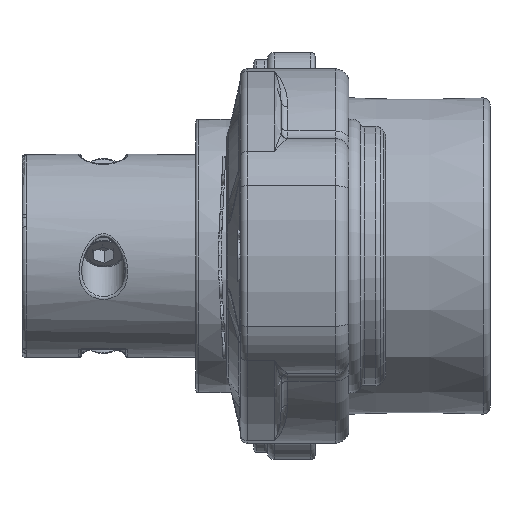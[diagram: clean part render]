
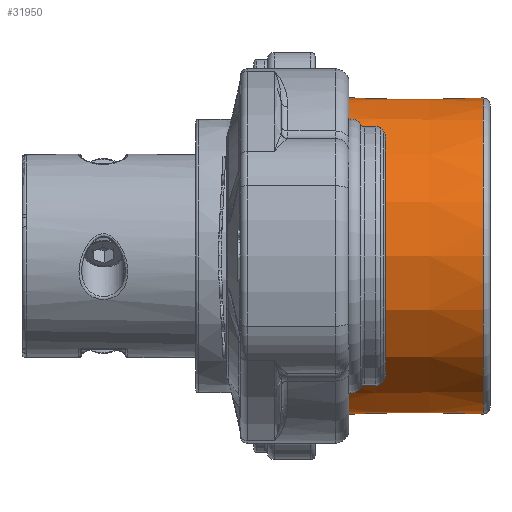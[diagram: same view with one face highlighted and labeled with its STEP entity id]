
A CAD part, front view. The second image highlights one B-rep face of the part: STEP entity #31950.
In plain terms, the highlighted conical face has half-angle 0.5 degrees and reference radius 11.65 mm.
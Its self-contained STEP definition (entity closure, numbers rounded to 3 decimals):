
#410 = CARTESIAN_POINT ( 'NONE',  ( -0.496, 8.733, 7.718 ) ) ;
#2644 = AXIS2_PLACEMENT_3D ( 'NONE', #3254, #64159, #44410 ) ;
#3254 = CARTESIAN_POINT ( 'NONE',  ( -0.496, 0., 0. ) ) ;
#5167 = CARTESIAN_POINT ( 'NONE',  ( -4.765, 8.752, -7.752 ) ) ;
#7899 = EDGE_LOOP ( 'NONE', ( #75050, #81155, #26798, #79933 ) ) ;
#11277 = DIRECTION ( 'NONE',  ( 0., 0., 1. ) ) ;
#12788 = CARTESIAN_POINT ( 'NONE',  ( -2.631, 8.742, -7.735 ) ) ;
#14114 = VERTEX_POINT ( 'NONE', #81726 ) ;
#15880 = CARTESIAN_POINT ( 'NONE',  ( 0., 0., 0. ) ) ;
#16325 = AXIS2_PLACEMENT_3D ( 'NONE', #86913, #67674, #11277 ) ;
#18160 = CARTESIAN_POINT ( 'NONE',  ( -0.496, 8.733, -7.718 ) ) ;
#19377 = CONICAL_SURFACE ( 'NONE', #69502, 11.65, 0.009 ) ;
#22412 = CARTESIAN_POINT ( 'NONE',  ( -12.404, 8.786, -7.814 ) ) ;
#24212 = VERTEX_POINT ( 'NONE', #22412 ) ;
#25894 = EDGE_CURVE ( 'NONE', #14114, #24212, #84961, .T. ) ;
#26798 = ORIENTED_EDGE ( 'NONE', *, *, #74245, .T. ) ;
#31593 = CARTESIAN_POINT ( 'NONE',  ( -10.57, 8.778, -7.8 ) ) ;
#31950 = ADVANCED_FACE ( 'NONE', ( #57495 ), #19377, .T. ) ;
#36881 = DIRECTION ( 'NONE',  ( 0., 0., 1. ) ) ;
#38304 = CARTESIAN_POINT ( 'NONE',  ( -6.9, 8.761, -7.77 ) ) ;
#41567 = CARTESIAN_POINT ( 'NONE',  ( -12.404, 8.786, 7.814 ) ) ;
#41670 = CARTESIAN_POINT ( 'NONE',  ( -0.496, 8.733, 7.718 ) ) ;
#42719 = DIRECTION ( 'NONE',  ( -1., 0., 0. ) ) ;
#44410 = DIRECTION ( 'NONE',  ( 0., 0., -1. ) ) ;
#49525 = VERTEX_POINT ( 'NONE', #61516 ) ;
#52631 = CARTESIAN_POINT ( 'NONE',  ( -12.404, 8.786, -7.814 ) ) ;
#54570 = CARTESIAN_POINT ( 'NONE',  ( -8.135, 8.767, 7.78 ) ) ;
#54996 = CARTESIAN_POINT ( 'NONE',  ( -10.269, 8.776, 7.797 ) ) ;
#56337 = CARTESIAN_POINT ( 'NONE',  ( -6., 8.757, 7.762 ) ) ;
#57495 = FACE_OUTER_BOUND ( 'NONE', #7899, .T. ) ;
#60690 = CARTESIAN_POINT ( 'NONE',  ( -8.735, 8.77, -7.785 ) ) ;
#61516 = CARTESIAN_POINT ( 'NONE',  ( -0.496, 8.733, -7.718 ) ) ;
#63276 = B_SPLINE_CURVE_WITH_KNOTS ( 'NONE', 3,
 ( #410, #68026, #76055, #56337, #54570, #54996, #41567 ),
 .UNSPECIFIED., .F., .F.,
 ( 4, 3, 4 ),
 ( 0., 0.006, 0.012 ),
 .UNSPECIFIED. ) ;
#64159 = DIRECTION ( 'NONE',  ( -1., 0., 0. ) ) ;
#67674 = DIRECTION ( 'NONE',  ( 1., 0., 0. ) ) ;
#67843 = B_SPLINE_CURVE_WITH_KNOTS ( 'NONE', 3,
 ( #52631, #31593, #60690, #38304, #5167, #12788, #18160 ),
 .UNSPECIFIED., .F., .F.,
 ( 4, 3, 4 ),
 ( 0., 0.006, 0.012 ),
 .UNSPECIFIED. ) ;
#68026 = CARTESIAN_POINT ( 'NONE',  ( -2.33, 8.741, 7.733 ) ) ;
#68933 = EDGE_CURVE ( 'NONE', #85004, #14114, #63276, .T. ) ;
#69502 = AXIS2_PLACEMENT_3D ( 'NONE', #15880, #42719, #36881 ) ;
#74245 = EDGE_CURVE ( 'NONE', #24212, #49525, #67843, .T. ) ;
#75050 = ORIENTED_EDGE ( 'NONE', *, *, #68933, .T. ) ;
#76055 = CARTESIAN_POINT ( 'NONE',  ( -4.165, 8.749, 7.747 ) ) ;
#79933 = ORIENTED_EDGE ( 'NONE', *, *, #84339, .T. ) ;
#81155 = ORIENTED_EDGE ( 'NONE', *, *, #25894, .T. ) ;
#81726 = CARTESIAN_POINT ( 'NONE',  ( -12.404, 8.786, 7.814 ) ) ;
#82719 = CIRCLE ( 'NONE', #2644, 11.654 ) ;
#84339 = EDGE_CURVE ( 'NONE', #49525, #85004, #82719, .T. ) ;
#84961 = CIRCLE ( 'NONE', #16325, 11.758 ) ;
#85004 = VERTEX_POINT ( 'NONE', #41670 ) ;
#86913 = CARTESIAN_POINT ( 'NONE',  ( -12.404, 0., 0. ) ) ;
